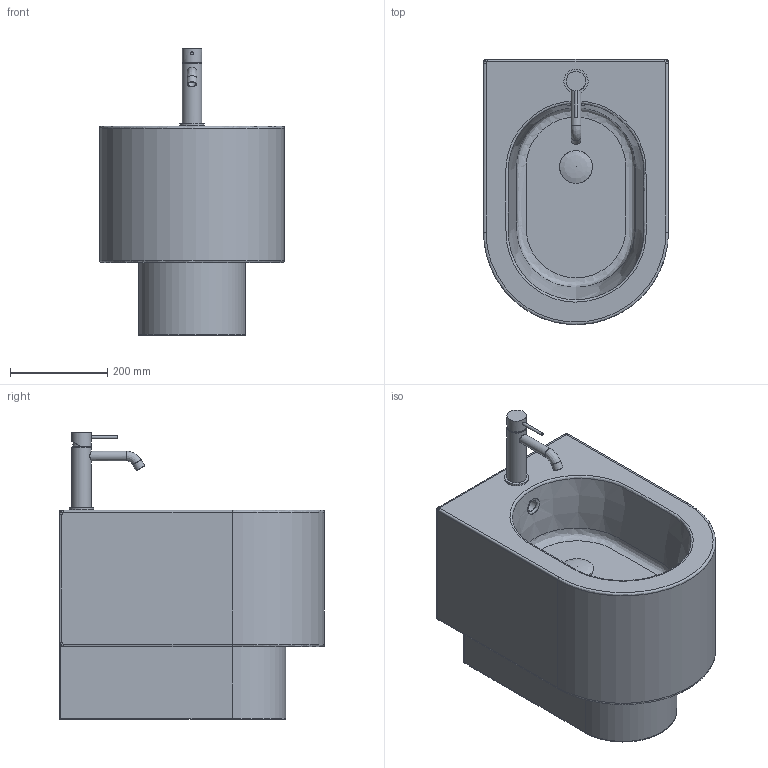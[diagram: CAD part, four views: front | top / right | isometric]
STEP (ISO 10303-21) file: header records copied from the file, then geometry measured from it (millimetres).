
FILE_DESCRIPTION(/* description */ (''),/* implementation_level */ '2;1');
FILE_NAME(/* name */ 'OTBI',/* time_stamp */ '2024-10-07T09:22:49+02:00',/* author */ (''),/* organization */ (''),/* preprocessor_version */ 'ST-DEVELOPER v16.5',/* originating_system */ 'Rhino 7.27',/* authorisation */ '');
FILE_SCHEMA (('CONFIG_CONTROL_DESIGN'));
Length unit declared in the file: centimetre
Products named in the file (1): Document
Bounding box: 380.01 x 544.8 x 590 mm (x, y, z)
Volume: 65525416.3 mm3; surface area: 1515382.3 mm2
Topology: 4 solids, 4 shells, 92 faces, 207 edges, 128 vertices
Faces by surface type: bspline 51, plane 25, cylinder 16
Full cylindrical faces by diameter (mm): 6 x1, 16.815 x2, 20.178 x2, 25 x1, 36.471 x1, 40 x2, 45 x1, 50 x1
Entity records: 7134 total; most frequent: CARTESIAN_POINT 5693, ORIENTED_EDGE 410, EDGE_CURVE 205, B_SPLINE_CURVE_WITH_KNOTS 146, VERTEX_POINT 128, EDGE_LOOP 99, ADVANCED_FACE 92, FACE_OUTER_BOUND 92
